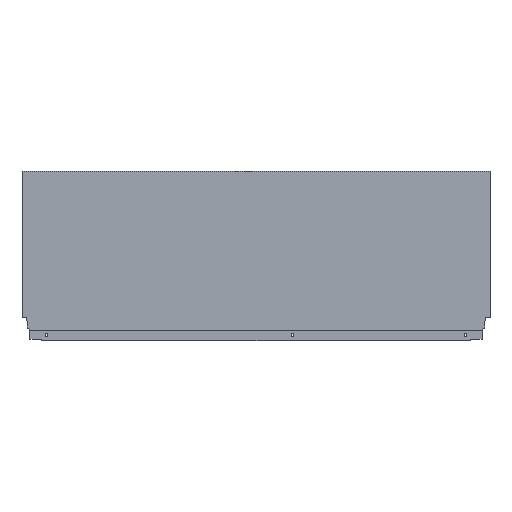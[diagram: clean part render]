
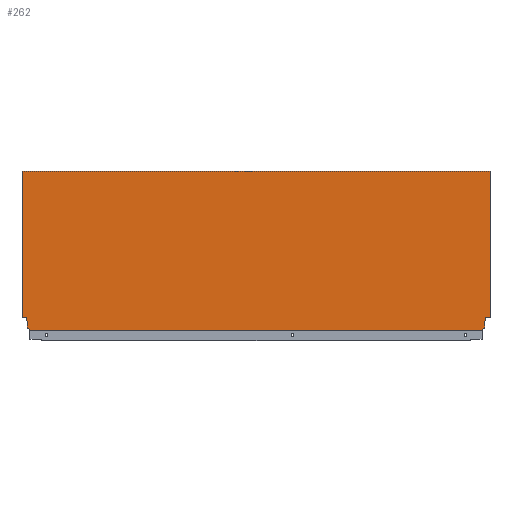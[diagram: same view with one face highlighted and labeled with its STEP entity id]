
A CAD part, top view. The second image highlights one B-rep face of the part: STEP entity #262.
In plain terms, the highlighted planar face has unit normal (0, 0, 1).
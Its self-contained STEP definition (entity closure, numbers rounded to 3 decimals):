
#2 = EDGE_CURVE ( 'NONE', #948, #953, #453, .T. ) ;
#3 = EDGE_CURVE ( 'NONE', #1209, #1029, #404, .T. ) ;
#6 = EDGE_CURVE ( 'NONE', #948, #1130, #386, .T. ) ;
#42 = EDGE_CURVE ( 'NONE', #1074, #1115, #370, .T. ) ;
#44 = EDGE_CURVE ( 'NONE', #1104, #1092, #381, .T. ) ;
#45 = EDGE_CURVE ( 'NONE', #1199, #1050, #364, .T. ) ;
#46 = EDGE_CURVE ( 'NONE', #1050, #936, #371, .T. ) ;
#47 = EDGE_CURVE ( 'NONE', #1092, #1074, #367, .T. ) ;
#48 = EDGE_CURVE ( 'NONE', #1115, #1199, #365, .T. ) ;
#123 = AXIS2_PLACEMENT_3D ( 'NONE', #1033, #1024, #1023 ) ;
#165 = ORIENTED_EDGE ( 'NONE', *, *, #46, .F. ) ;
#169 = ORIENTED_EDGE ( 'NONE', *, *, #2, .T. ) ;
#170 = ORIENTED_EDGE ( 'NONE', *, *, #44, .F. ) ;
#171 = ORIENTED_EDGE ( 'NONE', *, *, #1280, .F. ) ;
#178 = ORIENTED_EDGE ( 'NONE', *, *, #1283, .F. ) ;
#181 = ORIENTED_EDGE ( 'NONE', *, *, #48, .F. ) ;
#182 = ORIENTED_EDGE ( 'NONE', *, *, #42, .F. ) ;
#186 = ORIENTED_EDGE ( 'NONE', *, *, #47, .F. ) ;
#187 = ORIENTED_EDGE ( 'NONE', *, *, #1281, .F. ) ;
#188 = ORIENTED_EDGE ( 'NONE', *, *, #45, .F. ) ;
#189 = ORIENTED_EDGE ( 'NONE', *, *, #3, .F. ) ;
#191 = ORIENTED_EDGE ( 'NONE', *, *, #1278, .F. ) ;
#193 = ORIENTED_EDGE ( 'NONE', *, *, #6, .F. ) ;
#212 = ORIENTED_EDGE ( 'NONE', *, *, #1282, .T. ) ;
#262 = ADVANCED_FACE ( 'NONE', ( #1524 ), #1037, .T. ) ;
#358 = VECTOR ( 'NONE', #788, 1000. ) ;
#360 = VECTOR ( 'NONE', #796, 1000. ) ;
#362 = VECTOR ( 'NONE', #802, 1000. ) ;
#363 = VECTOR ( 'NONE', #814, 1000. ) ;
#364 = LINE ( 'NONE', #816, #363 ) ;
#365 = LINE ( 'NONE', #800, #358 ) ;
#366 = VECTOR ( 'NONE', #820, 1000. ) ;
#367 = LINE ( 'NONE', #811, #360 ) ;
#369 = VECTOR ( 'NONE', #836, 1000. ) ;
#370 = LINE ( 'NONE', #840, #369 ) ;
#371 = LINE ( 'NONE', #825, #362 ) ;
#381 = LINE ( 'NONE', #834, #366 ) ;
#382 = VECTOR ( 'NONE', #887, 1000. ) ;
#386 = LINE ( 'NONE', #896, #382 ) ;
#387 = VECTOR ( 'NONE', #907, 1000. ) ;
#388 = VECTOR ( 'NONE', #916, 1000. ) ;
#404 = LINE ( 'NONE', #919, #387 ) ;
#411 = EDGE_LOOP ( 'NONE', ( #212, #189, #191, #178, #171, #193, #169, #187, #165, #188, #181, #182, #186, #170 ) ) ;
#453 = LINE ( 'NONE', #1260, #388 ) ;
#711 = DIRECTION ( 'NONE',  ( 0., 1., 0. ) ) ;
#712 = CARTESIAN_POINT ( 'NONE',  ( -758.1, 10.765, 8. ) ) ;
#713 = DIRECTION ( 'NONE',  ( 0., -1., 0. ) ) ;
#714 = CARTESIAN_POINT ( 'NONE',  ( -767., 0., 8. ) ) ;
#715 = DIRECTION ( 'NONE',  ( 0., -1., 0. ) ) ;
#716 = CARTESIAN_POINT ( 'NONE',  ( -13.004, 1.146, 8. ) ) ;
#717 = DIRECTION ( 'NONE',  ( -0.94, 0.342, 0. ) ) ;
#718 = CARTESIAN_POINT ( 'NONE',  ( -758.1, 2.64, 8. ) ) ;
#722 = DIRECTION ( 'NONE',  ( -0.174, 0.985, 0. ) ) ;
#737 = CARTESIAN_POINT ( 'NONE',  ( -759.94, 21.2, 8. ) ) ;
#754 = CARTESIAN_POINT ( 'NONE',  ( -759.94, 21.2, 8. ) ) ;
#756 = CARTESIAN_POINT ( 'NONE',  ( -8.9, 10.765, 8. ) ) ;
#762 = CARTESIAN_POINT ( 'NONE',  ( -758.1, 10.765, 8. ) ) ;
#776 = CARTESIAN_POINT ( 'NONE',  ( -753.996, 1.146, 8. ) ) ;
#783 = CARTESIAN_POINT ( 'NONE',  ( -7.06, 21.2, 8. ) ) ;
#787 = CARTESIAN_POINT ( 'NONE',  ( -767., 260.7, 8. ) ) ;
#788 = DIRECTION ( 'NONE',  ( -0.174, -0.985, 0. ) ) ;
#792 = CARTESIAN_POINT ( 'NONE',  ( 0., 260.7, 8. ) ) ;
#796 = DIRECTION ( 'NONE',  ( 0., -1., 0. ) ) ;
#799 = CARTESIAN_POINT ( 'NONE',  ( 0., 21.2, 8. ) ) ;
#800 = CARTESIAN_POINT ( 'NONE',  ( -7.06, 21.2, 8. ) ) ;
#802 = DIRECTION ( 'NONE',  ( -0.94, -0.342, 0. ) ) ;
#806 = CARTESIAN_POINT ( 'NONE',  ( -758.1, 2.64, 8. ) ) ;
#808 = CARTESIAN_POINT ( 'NONE',  ( -8.9, 2.64, 8. ) ) ;
#811 = CARTESIAN_POINT ( 'NONE',  ( 0., 0., 8. ) ) ;
#814 = DIRECTION ( 'NONE',  ( 0., -1., 0. ) ) ;
#816 = CARTESIAN_POINT ( 'NONE',  ( -8.9, 10.765, 8. ) ) ;
#818 = CARTESIAN_POINT ( 'NONE',  ( -767., 21.2, 8. ) ) ;
#820 = DIRECTION ( 'NONE',  ( 1., 0., 0. ) ) ;
#825 = CARTESIAN_POINT ( 'NONE',  ( -8.9, 2.64, 8. ) ) ;
#834 = CARTESIAN_POINT ( 'NONE',  ( -767., 260.7, 8. ) ) ;
#836 = DIRECTION ( 'NONE',  ( -1., 0., 0. ) ) ;
#840 = CARTESIAN_POINT ( 'NONE',  ( 0., 21.2, 8. ) ) ;
#848 = CARTESIAN_POINT ( 'NONE',  ( -13.004, 1.146, 8. ) ) ;
#867 = CARTESIAN_POINT ( 'NONE',  ( -753.996, 0., 8. ) ) ;
#872 = CARTESIAN_POINT ( 'NONE',  ( -13.004, 0., 8. ) ) ;
#887 = DIRECTION ( 'NONE',  ( 0., 1., 0. ) ) ;
#896 = CARTESIAN_POINT ( 'NONE',  ( -753.996, 1.146, 8. ) ) ;
#907 = DIRECTION ( 'NONE',  ( -1., 0., 0. ) ) ;
#916 = DIRECTION ( 'NONE',  ( 1., 0., 0. ) ) ;
#919 = CARTESIAN_POINT ( 'NONE',  ( -772., 21.2, 8. ) ) ;
#936 = VERTEX_POINT ( 'NONE', #848 ) ;
#948 = VERTEX_POINT ( 'NONE', #867 ) ;
#953 = VERTEX_POINT ( 'NONE', #872 ) ;
#1023 = DIRECTION ( 'NONE',  ( 1., 0., 0. ) ) ;
#1024 = DIRECTION ( 'NONE',  ( 0., 0., 1. ) ) ;
#1029 = VERTEX_POINT ( 'NONE', #818 ) ;
#1033 = CARTESIAN_POINT ( 'NONE',  ( -767., 0., 8. ) ) ;
#1037 = PLANE ( 'NONE',  #123 ) ;
#1050 = VERTEX_POINT ( 'NONE', #808 ) ;
#1057 = VERTEX_POINT ( 'NONE', #806 ) ;
#1074 = VERTEX_POINT ( 'NONE', #799 ) ;
#1092 = VERTEX_POINT ( 'NONE', #792 ) ;
#1104 = VERTEX_POINT ( 'NONE', #787 ) ;
#1115 = VERTEX_POINT ( 'NONE', #783 ) ;
#1130 = VERTEX_POINT ( 'NONE', #776 ) ;
#1168 = VERTEX_POINT ( 'NONE', #762 ) ;
#1199 = VERTEX_POINT ( 'NONE', #756 ) ;
#1209 = VERTEX_POINT ( 'NONE', #754 ) ;
#1260 = CARTESIAN_POINT ( 'NONE',  ( -767., 0., 8. ) ) ;
#1278 = EDGE_CURVE ( 'NONE', #1168, #1209, #1461, .T. ) ;
#1280 = EDGE_CURVE ( 'NONE', #1130, #1057, #1462, .T. ) ;
#1281 = EDGE_CURVE ( 'NONE', #936, #953, #1454, .T. ) ;
#1282 = EDGE_CURVE ( 'NONE', #1104, #1029, #1452, .T. ) ;
#1283 = EDGE_CURVE ( 'NONE', #1057, #1168, #1449, .T. ) ;
#1448 = VECTOR ( 'NONE', #711, 1000. ) ;
#1449 = LINE ( 'NONE', #712, #1448 ) ;
#1451 = VECTOR ( 'NONE', #713, 1000. ) ;
#1452 = LINE ( 'NONE', #714, #1451 ) ;
#1453 = VECTOR ( 'NONE', #715, 1000. ) ;
#1454 = LINE ( 'NONE', #716, #1453 ) ;
#1458 = VECTOR ( 'NONE', #722, 1000. ) ;
#1461 = LINE ( 'NONE', #737, #1458 ) ;
#1462 = LINE ( 'NONE', #718, #1466 ) ;
#1466 = VECTOR ( 'NONE', #717, 1000. ) ;
#1524 = FACE_OUTER_BOUND ( 'NONE', #411, .T. ) ;
